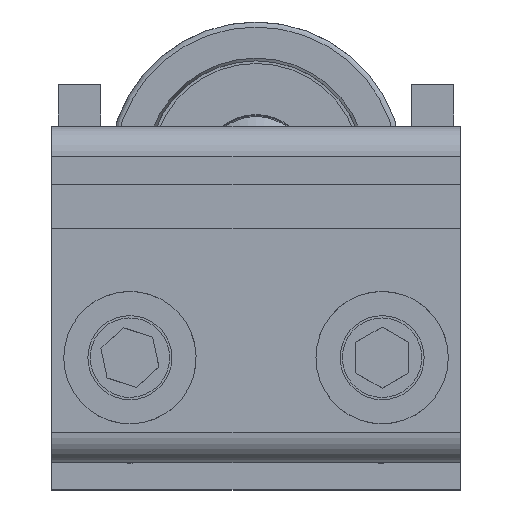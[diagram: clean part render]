
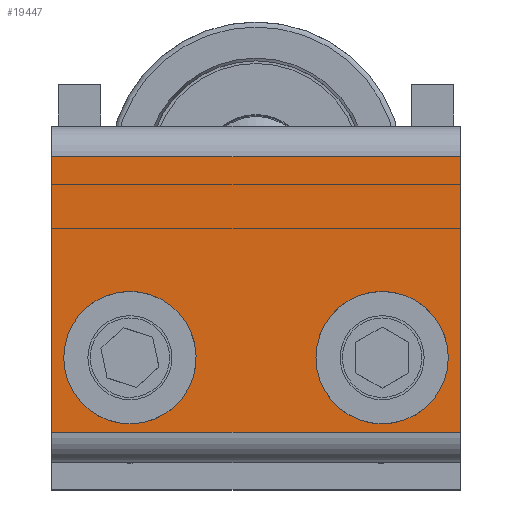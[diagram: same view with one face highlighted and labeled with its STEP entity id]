
A CAD part, top view. The second image highlights one B-rep face of the part: STEP entity #19447.
In plain terms, the highlighted planar face has unit normal (0, 0, 1) as drawn and (0, 0, -1) by its records, which use the part's own axes.
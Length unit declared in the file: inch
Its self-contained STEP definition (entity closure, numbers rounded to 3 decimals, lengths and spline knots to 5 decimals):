
#19140=DIRECTION('',(0.,-1.,0.));
#19141=VECTOR('',#19140,0.82);
#19142=CARTESIAN_POINT('',(-0.6075,0.41,-0.18));
#19143=LINE('',#19142,#19141);
#19166=DIRECTION('',(0.,-1.,0.));
#19167=VECTOR('',#19166,0.82);
#19168=CARTESIAN_POINT('',(0.6075,0.41,-0.18));
#19169=LINE('',#19168,#19167);
#19170=CARTESIAN_POINT('',(0.375,-0.188,-0.18));
#19171=DIRECTION('',(0.,0.,1.));
#19172=DIRECTION('',(1.,0.,0.));
#19173=AXIS2_PLACEMENT_3D('',#19170,#19171,#19172);
#19175=CARTESIAN_POINT('',(0.375,-0.188,-0.18));
#19176=DIRECTION('',(0.,0.,1.));
#19177=DIRECTION('',(-1.,0.,0.));
#19178=AXIS2_PLACEMENT_3D('',#19175,#19176,#19177);
#19180=CARTESIAN_POINT('',(-0.375,-0.188,-0.18));
#19181=DIRECTION('',(0.,0.,1.));
#19182=DIRECTION('',(1.,0.,0.));
#19183=AXIS2_PLACEMENT_3D('',#19180,#19181,#19182);
#19185=CARTESIAN_POINT('',(-0.375,-0.188,-0.18));
#19186=DIRECTION('',(0.,0.,1.));
#19187=DIRECTION('',(-1.,0.,0.));
#19188=AXIS2_PLACEMENT_3D('',#19185,#19186,#19187);
#19194=DIRECTION('',(-1.,0.,0.));
#19195=VECTOR('',#19194,1.215);
#19196=CARTESIAN_POINT('',(0.6075,0.41,-0.18));
#19197=LINE('',#19196,#19195);
#19210=DIRECTION('',(1.,0.,0.));
#19211=VECTOR('',#19210,1.215);
#19212=CARTESIAN_POINT('',(-0.6075,-0.41,-0.18));
#19213=LINE('',#19212,#19211);
#19293=CARTESIAN_POINT('',(-0.6075,0.41,-0.18));
#19295=VERTEX_POINT('',#19293);
#19310=CARTESIAN_POINT('',(0.6075,0.41,-0.18));
#19311=CARTESIAN_POINT('',(0.6075,-0.41,-0.18));
#19312=VERTEX_POINT('',#19310);
#19313=VERTEX_POINT('',#19311);
#19316=CARTESIAN_POINT('',(0.25,-0.188,-0.18));
#19317=CARTESIAN_POINT('',(0.5,-0.188,-0.18));
#19318=VERTEX_POINT('',#19316);
#19319=VERTEX_POINT('',#19317);
#19324=CARTESIAN_POINT('',(-0.25,-0.188,-0.18));
#19325=VERTEX_POINT('',#19324);
#19326=CARTESIAN_POINT('',(-0.5,-0.188,-0.18));
#19327=VERTEX_POINT('',#19326);
#19332=CARTESIAN_POINT('',(-0.6075,-0.41,-0.18));
#19333=VERTEX_POINT('',#19332);
#19422=CARTESIAN_POINT('',(0.6075,0.5,-0.18));
#19423=DIRECTION('',(0.,0.,1.));
#19424=DIRECTION('',(0.,-1.,0.));
#19425=AXIS2_PLACEMENT_3D('',#19422,#19423,#19424);
#19426=PLANE('',#19425);
#19427=ORIENTED_EDGE('',*,*,#19374,.F.);
#19429=ORIENTED_EDGE('',*,*,#19428,.T.);
#19430=ORIENTED_EDGE('',*,*,#19401,.T.);
#19432=ORIENTED_EDGE('',*,*,#19431,.T.);
#19433=EDGE_LOOP('',(#19427,#19429,#19430,#19432));
#19434=FACE_OUTER_BOUND('',#19433,.F.);
#19436=ORIENTED_EDGE('',*,*,#19435,.F.);
#19438=ORIENTED_EDGE('',*,*,#19437,.F.);
#19439=EDGE_LOOP('',(#19436,#19438));
#19440=FACE_BOUND('',#19439,.F.);
#19442=ORIENTED_EDGE('',*,*,#19441,.F.);
#19444=ORIENTED_EDGE('',*,*,#19443,.F.);
#19445=EDGE_LOOP('',(#19442,#19444));
#19446=FACE_BOUND('',#19445,.F.);
#19174=CIRCLE('',#19173,0.125);
#19179=CIRCLE('',#19178,0.125);
#19184=CIRCLE('',#19183,0.125);
#19189=CIRCLE('',#19188,0.125);
#19374=EDGE_CURVE('',#19312,#19313,#19169,.T.);
#19401=EDGE_CURVE('',#19295,#19333,#19143,.T.);
#19428=EDGE_CURVE('',#19312,#19295,#19197,.T.);
#19431=EDGE_CURVE('',#19333,#19313,#19213,.T.);
#19435=EDGE_CURVE('',#19319,#19318,#19174,.T.);
#19437=EDGE_CURVE('',#19318,#19319,#19179,.T.);
#19441=EDGE_CURVE('',#19325,#19327,#19184,.T.);
#19443=EDGE_CURVE('',#19327,#19325,#19189,.T.);
#19447=ADVANCED_FACE('',(#19434,#19440,#19446),#19426,.F.);
